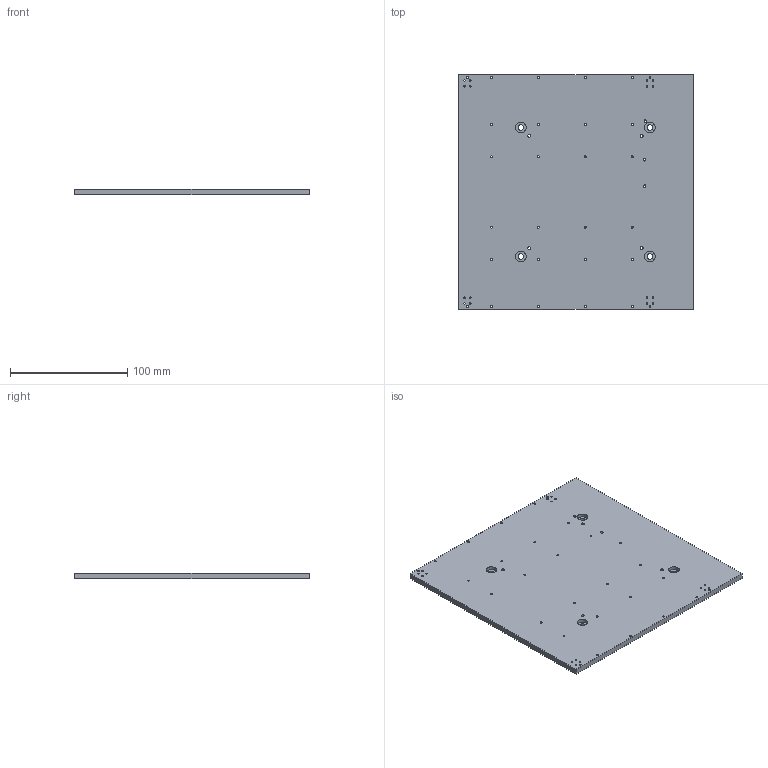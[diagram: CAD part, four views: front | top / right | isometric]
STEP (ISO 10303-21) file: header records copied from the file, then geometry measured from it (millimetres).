
FILE_DESCRIPTION(/* description */ ('','CAx-IF Rec.Pracs.---Representation and Presentation of Product Manufacturing Information (PMI)---4.0---2014-10-13'),/* implementation_level */ '2;1');
FILE_NAME(/* name */ 'ai_mini_platform_v9.step',/* time_stamp */ '2025-01-15T00:37:53+08:00',/* author */ (''),/* organization */ (''),/* preprocessor_version */ 'ST-DEVELOPER v20',/* originating_system */ 'Autodesk Translation Framework v13.20.0.188',/* authorisation */ '');
FILE_SCHEMA (('AP242_MANAGED_MODEL_BASED_3D_ENGINEERING_MIM_LF { 1 0 10303 442 1 1 4 }'));
Length unit declared in the file: millimetre
Products named in the file (1): ai_mini_platform
Bounding box: 200 x 200 x 5 mm (x, y, z)
Volume: 198564.5 mm3; surface area: 85375.8 mm2
Topology: 1 solids, 1 shells, 69 faces, 189 edges, 126 vertices
Faces by surface type: cylinder 59, plane 10
Full cylindrical faces by diameter (mm): 1.25 x16, 1.6 x28, 2.05 x3, 2.5 x4, 4.8 x4, 9 x4
Entity records: 2514 total; most frequent: DIRECTION 447, CARTESIAN_POINT 385, ORIENTED_EDGE 378, EDGE_CURVE 189, AXIS2_PLACEMENT_3D 188, EDGE_LOOP 183, VERTEX_POINT 126, CIRCLE 118
